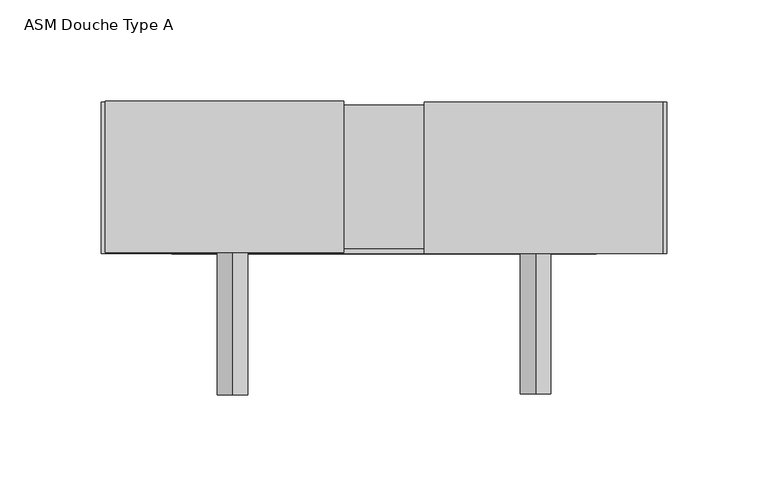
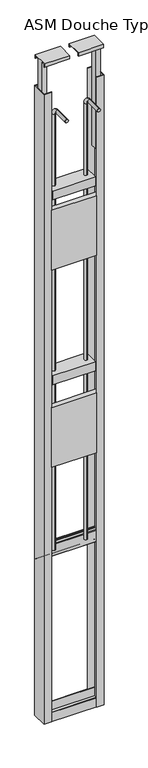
"""IFC4 building model written with IfcOpenShell, lengths in millimetres: flow terminal geometry, NLRS_74_PF_TLB_ASM Douche Type A glijstang_Geberit : ASM Douche Type A."""

from ifc_helpers import new_model, si_unit, point, frame, frame_2d, origin, place, context, project, spatial, polyline, circle_curve, ellipse_curve, trimmed, segment, composite_curve, outline, extrude, faceted_brep, source, transform, mapped, element, save
from ifc_brep_helpers import plane_surface, cylinder_surface, revolved_surface, advanced_brep


def asm_douche_type_a_63d58c08(model_context):
    return source(origin(), model_context, "Body", "SolidModel", [
        extrude(outline(polyline([(958.5814924, 2.0), (924.5814924, 2.0), (924.5814924, 0.0), (714.5814924, 0.0), (714.5814924, 2.0), (680.5814924, 2.0), (680.5814924, 24.0), (958.5814924, 24.0), (958.5814924, 2.0)])), frame((0.0, 0.0, 2172.5), z_axis=(0.0, 0.0, 1.0), x_axis=(1.0, 0.0, 0.0)), (0.0, 0.0, 1.0), 295.0),
        extrude(outline(polyline([(958.5814924, 2.0), (924.5814924, 2.0), (924.5814924, 0.0), (714.5814924, 0.0), (714.5814924, 2.0), (680.5814924, 2.0), (680.5814924, 24.0), (958.5814924, 24.0), (958.5814924, 2.0)])), frame((0.0, 0.0, 1202.5), z_axis=(0.0, 0.0, 1.0), x_axis=(1.0, 0.0, 0.0)), (0.0, 0.0, 1.0), 295.0),
        extrude(outline(polyline([(2.5, 2516.0), (2.5, 2560.0), (73.5, 2560.0), (73.5, 2516.0), (71.5, 2516.0), (71.5, 2558.0), (4.5, 2558.0), (4.5, 2516.0), (2.5, 2516.0)])), frame((719.5814924, 0.0, 0.0), z_axis=(1.0, 0.0, 0.0), x_axis=(0.0, 1.0, 0.0)), (0.0, 0.0, 1.0), 200.0),
        extrude(outline(polyline([(2.5, 1606.0), (2.5, 1650.0), (73.5, 1650.0), (73.5, 1606.0), (71.5, 1606.0), (71.5, 1648.0), (4.5, 1648.0), (4.5, 1606.0), (2.5, 1606.0)])), frame((719.5814924, 0.0, 0.0), z_axis=(1.0, 0.0, 0.0), x_axis=(0.0, 1.0, 0.0)), (0.0, 0.0, 1.0), 200.0),
        extrude(outline(polyline([(924.5814924, 0.0), (924.5814924, 2.0), (957.5814924, 2.0), (957.5814924, 73.0), (924.5814924, 73.0), (924.5814924, 75.0), (959.5814924, 75.0), (959.5814924, 0.0), (924.5814924, 0.0)])), frame((0.0, 0.0, -50.0), z_axis=(0.0, 0.0, 1.0), x_axis=(1.0, 0.0, 0.0)), (0.0, 0.0, 1.0), 3100.0),
        extrude(outline(polyline([(714.5814924, 0.0), (679.5814924, 0.0), (679.5814924, 75.0), (714.5814924, 75.0), (714.5814924, 73.0), (681.5814924, 73.0), (681.5814924, 2.0), (714.5814924, 2.0), (714.5814924, 0.0)])), frame((0.0, 0.0, -50.0), z_axis=(0.0, 0.0, 1.0), x_axis=(1.0, 0.0, 0.0)), (0.0, 0.0, 1.0), 3100.0),
        extrude(outline(polyline([(2.0, -6.0), (4.0, -6.0), (4.0, -48.0), (71.0, -48.0), (71.0, -6.0), (73.0, -6.0), (73.0, -50.0), (2.0, -50.0), (2.0, -6.0)])), frame((684.5814924, 0.0, 0.0), z_axis=(1.0, 0.0, 0.0), x_axis=(0.0, 1.0, 0.0)), (0.0, 0.0, 1.0), 270.0),
        faceted_brep([(839.5814924, 0.0, 3183.0), (839.5814924, 0.0, 3200.0), (839.5814924, 75.0, 3200.0), (839.5814924, 75.0, 3183.0), (839.5814924, 73.0, 3183.0), (839.5814924, 73.0, 3198.0), (839.5814924, 2.0, 3198.0), (839.5814924, 2.0, 3183.0), (957.5814924, 0.0, 3183.0), (957.5814924, 2.0, 3183.0), (957.5814924, 2.0, 3198.0), (957.5814924, 25.0, 3198.0), (957.5814924, 25.0, 2683.0), (957.5814924, 50.0, 2683.0), (957.5814924, 50.0, 3198.0), (957.5814924, 73.0, 3198.0), (957.5814924, 73.0, 3183.0), (957.5814924, 75.0, 3183.0), (957.5814924, 75.0, 3200.0), (957.5814924, 0.0, 3200.0), (932.5814924, 50.0, 3198.0), (932.5814924, 25.0, 3198.0), (932.5814924, 25.0, 2683.0), (932.5814924, 50.0, 2683.0)], [[[0, 1, 2, 3, 4, 5, 6, 7]], [[8, 9, 10, 11, 12, 13, 14, 15, 16, 17, 18, 19]], [[0, 7, 9, 8]], [[7, 6, 10, 9]], [[6, 5, 15, 14, 20, 21, 11, 10]], [[5, 4, 16, 15]], [[4, 3, 17, 16]], [[3, 2, 18, 17]], [[2, 1, 19, 18]], [[1, 0, 8, 19]], [[22, 23, 13, 12]], [[22, 12, 11, 21]], [[13, 23, 20, 14]], [[23, 22, 21, 20]]]),
        faceted_brep([(799.5814924, 0.5, 3183.0), (799.5814924, 2.5, 3183.0), (799.5814924, 2.5, 3198.0), (799.5814924, 73.5, 3198.0), (799.5814924, 73.5, 3183.0), (799.5814924, 75.5, 3183.0), (799.5814924, 75.5, 3200.0), (799.5814924, 0.5, 3200.0), (681.5814924, 0.5, 3183.0), (681.5814924, 0.5, 3200.0), (681.5814924, 75.5, 3200.0), (681.5814924, 75.5, 3183.0), (681.5814924, 73.5, 3183.0), (681.5814924, 73.5, 3198.0), (681.5814924, 50.5, 3198.0), (681.5814924, 50.5, 2683.0), (681.5814924, 25.5, 2683.0), (681.5814924, 25.5, 3198.0), (681.5814924, 2.5, 3198.0), (681.5814924, 2.5, 3183.0), (706.5814924, 25.5, 3198.0), (706.5814924, 50.5, 3198.0), (706.5814924, 25.5, 2683.0), (706.5814924, 50.5, 2683.0)], [[[0, 1, 2, 3, 4, 5, 6, 7]], [[8, 9, 10, 11, 12, 13, 14, 15, 16, 17, 18, 19]], [[0, 8, 19, 1]], [[1, 19, 18, 2]], [[2, 18, 17, 20, 21, 14, 13, 3]], [[3, 13, 12, 4]], [[4, 12, 11, 5]], [[5, 11, 10, 6]], [[6, 10, 9, 7]], [[7, 9, 8, 0]], [[22, 16, 15, 23]], [[22, 20, 17, 16]], [[15, 14, 21, 23]], [[23, 21, 20, 22]]]),
        advanced_brep(
        [(894.5814924, 28.1893191, 768.0), (894.5814924, 43.1893191, 768.0), (894.5814924, 28.1893191, 2912.0), (894.5814924, 43.1893191, 2912.0), (894.5814924, 7.6893191, 2947.5), (894.5814924, 7.6893191, 2932.5), (894.5814924, -69.5, 2932.5), (894.5814924, -69.5, 2947.5)],
        [
            (0, 1, circle_curve(frame((894.5814924, 35.6893191, 768.0), z_axis=(0.0, 0.0, -1.0), x_axis=(0.0, 1.0, 0.0)), 7.5)),
            (1, 0, circle_curve(frame((894.5814924, 35.6893191, 768.0), z_axis=(0.0, 0.0, -1.0), x_axis=(0.0, 1.0, 0.0)), 7.5)),
            (0, 2),
            (2, 3, circle_curve(frame((894.5814924, 35.6893191, 2912.0), z_axis=(0.0, 0.0, -1.0), x_axis=(0.0, 1.0, 0.0)), 7.5)),
            (3, 1),
            (3, 2, circle_curve(frame((894.5814924, 35.6893191, 2912.0), z_axis=(0.0, 0.0, -1.0), x_axis=(0.0, 1.0, 0.0)), 7.5)),
            (4, 3, circle_curve(frame((894.5814924, 7.6893191, 2912.0), z_axis=(-1.0, 0.0, 0.0), x_axis=(0.0, 1.0, 0.0)), 35.5)),
            (2, 5, circle_curve(frame((894.5814924, 7.6893191, 2912.0), z_axis=(1.0, 0.0, 0.0), x_axis=(0.0, 1.0, 0.0)), 20.5)),
            (5, 4, circle_curve(frame((894.5814924, 7.6893191, 2940.0), z_axis=(0.0, 1.0, 0.0), x_axis=(0.0, 0.0, 1.0)), 7.5)),
            (4, 5, circle_curve(frame((894.5814924, 7.6893191, 2940.0), z_axis=(0.0, 1.0, 0.0), x_axis=(0.0, 0.0, 1.0)), 7.5)),
            (6, 7, circle_curve(frame((894.5814924, -69.5, 2940.0), z_axis=(0.0, -1.0, 0.0), x_axis=(0.0, 0.0, 1.0)), 7.5)),
            (7, 6, circle_curve(frame((894.5814924, -69.5, 2940.0), z_axis=(0.0, -1.0, 0.0), x_axis=(0.0, 0.0, 1.0)), 7.5)),
            (5, 6),
            (7, 4),
        ],
        [
            plane_surface(frame((894.5814924, 35.6893191, 768.0), z_axis=(0.0, 0.0, -1.0), x_axis=(-1.0, 0.0, 0.0))),
            cylinder_surface(frame((894.5814924, 35.6893191, 768.0), z_axis=(0.0, 0.0, -1.0), x_axis=(0.0, 1.0, 0.0)), 7.5),
            revolved_surface(trimmed(ellipse_curve(frame((894.5814924, 35.6893191, 2912.0), z_axis=(0.0, 0.0, -1.0), x_axis=(0.0, 1.0, 0.0)), 7.5, 7.5), [point((894.5814924, 28.1893191, 2912.0))], [point((894.5814924, 43.1893191, 2912.0))], True, "CARTESIAN"), (894.5814924, 7.6893191, 2912.0), (1.0, 0.0, 0.0)),
            revolved_surface(trimmed(ellipse_curve(frame((894.5814924, 35.6893191, 2912.0), z_axis=(0.0, 0.0, -1.0), x_axis=(0.0, 1.0, 0.0)), 7.5, 7.5), [point((894.5814924, 43.1893191, 2912.0))], [point((894.5814924, 28.1893191, 2912.0))], True, "CARTESIAN"), (894.5814924, 7.6893191, 2912.0), (1.0, 0.0, 0.0)),
            plane_surface(frame((894.5814924, -69.5, 2940.0), z_axis=(0.0, -1.0, 0.0), x_axis=(-1.0, 0.0, 0.0))),
            cylinder_surface(frame((894.5814924, 7.6893191, 2940.0), z_axis=(0.0, 1.0, 0.0), x_axis=(0.0, 0.0, 1.0)), 7.5),
        ],
        [
            (0, [[1, 2]]),
            (1, [[-1, 3, 4, 5]]),
            (1, [[-2, -5, 6, -3]]),
            (2, [[7, -4, 8, 9]]),
            (3, [[-8, -6, -7, 10]]),
            (4, [[11, 12]]),
            (5, [[-9, 13, -12, 14]]),
            (5, [[-10, -14, -11, -13]]),
        ],
    ),
        advanced_brep(
        [(744.5814924, 28.1893191, 768.0), (744.5814924, 43.1893191, 768.0), (744.5814924, 28.1893191, 2912.0), (744.5814924, 43.1893191, 2912.0), (744.5814924, 7.6893191, 2947.5), (744.5814924, 7.6893191, 2932.5), (744.5814924, -70.0, 2932.5), (744.5814924, -70.0, 2947.5)],
        [
            (0, 1, circle_curve(frame((744.5814924, 35.6893191, 768.0), z_axis=(0.0, 0.0, -1.0), x_axis=(0.0, 1.0, 0.0)), 7.5)),
            (1, 0, circle_curve(frame((744.5814924, 35.6893191, 768.0), z_axis=(0.0, 0.0, -1.0), x_axis=(0.0, 1.0, 0.0)), 7.5)),
            (0, 2),
            (2, 3, circle_curve(frame((744.5814924, 35.6893191, 2912.0), z_axis=(0.0, 0.0, -1.0), x_axis=(0.0, 1.0, 0.0)), 7.5)),
            (3, 1),
            (3, 2, circle_curve(frame((744.5814924, 35.6893191, 2912.0), z_axis=(0.0, 0.0, -1.0), x_axis=(0.0, 1.0, 0.0)), 7.5)),
            (4, 3, circle_curve(frame((744.5814924, 7.6893191, 2912.0), z_axis=(-1.0, 0.0, 0.0), x_axis=(0.0, 1.0, 0.0)), 35.5)),
            (2, 5, circle_curve(frame((744.5814924, 7.6893191, 2912.0), z_axis=(1.0, 0.0, 0.0), x_axis=(0.0, 1.0, 0.0)), 20.5)),
            (5, 4, circle_curve(frame((744.5814924, 7.6893191, 2940.0), z_axis=(0.0, 1.0, 0.0), x_axis=(0.0, 0.0, 1.0)), 7.5)),
            (4, 5, circle_curve(frame((744.5814924, 7.6893191, 2940.0), z_axis=(0.0, 1.0, 0.0), x_axis=(0.0, 0.0, 1.0)), 7.5)),
            (6, 7, circle_curve(frame((744.5814924, -70.0, 2940.0), z_axis=(0.0, -1.0, 0.0), x_axis=(0.0, 0.0, 1.0)), 7.5)),
            (7, 6, circle_curve(frame((744.5814924, -70.0, 2940.0), z_axis=(0.0, -1.0, 0.0), x_axis=(0.0, 0.0, 1.0)), 7.5)),
            (5, 6),
            (7, 4),
        ],
        [
            plane_surface(frame((819.5814924, 35.6893191, 768.0), z_axis=(0.0, 0.0, -1.0), x_axis=(-1.0, 0.0, 0.0))),
            cylinder_surface(frame((744.5814924, 35.6893191, 768.0), z_axis=(0.0, 0.0, -1.0), x_axis=(0.0, 1.0, 0.0)), 7.5),
            revolved_surface(trimmed(ellipse_curve(frame((744.5814924, 35.6893191, 2912.0), z_axis=(0.0, 0.0, -1.0), x_axis=(0.0, 1.0, 0.0)), 7.5, 7.5), [point((744.5814924, 28.1893191, 2912.0))], [point((744.5814924, 43.1893191, 2912.0))], True, "CARTESIAN"), (819.5814924, 7.6893191, 2912.0), (1.0, 0.0, 0.0)),
            revolved_surface(trimmed(ellipse_curve(frame((744.5814924, 35.6893191, 2912.0), z_axis=(0.0, 0.0, -1.0), x_axis=(0.0, 1.0, 0.0)), 7.5, 7.5), [point((744.5814924, 43.1893191, 2912.0))], [point((744.5814924, 28.1893191, 2912.0))], True, "CARTESIAN"), (819.5814924, 7.6893191, 2912.0), (1.0, 0.0, 0.0)),
            plane_surface(frame((819.5814924, -70.0, 2940.0), z_axis=(0.0, -1.0, 0.0), x_axis=(-1.0, 0.0, 0.0))),
            cylinder_surface(frame((744.5814924, 7.6893191, 2940.0), z_axis=(0.0, 1.0, 0.0), x_axis=(0.0, 0.0, 1.0)), 7.5),
        ],
        [
            (0, [[1, 2]]),
            (1, [[-1, 3, 4, 5]]),
            (1, [[-2, -5, 6, -3]]),
            (2, [[7, -4, 8, 9]]),
            (3, [[-8, -6, -7, 10]]),
            (4, [[11, 12]]),
            (5, [[-9, 13, -12, 14]]),
            (5, [[-10, -14, -11, -13]]),
        ],
    ),
        extrude(outline(composite_curve([segment(trimmed(circle_curve(frame_2d((71.3732031, 779.0160249)), 2.1267969), [point((73.5, 779.0160249))], [point((71.3732031, 776.889228))], False, "CARTESIAN"), True, "CONTINUOUS"), segment(polyline([(71.3732031, 776.889228), (56.3732031, 776.889228)]), True, "CONTINUOUS"), segment(trimmed(circle_curve(frame_2d((56.3732031, 776.2053441)), 0.683884), [point((56.3732031, 776.889228))], [point((55.6893191, 776.2053441))], True, "CARTESIAN"), True, "CONTINUOUS"), segment(polyline([(55.6893191, 776.2053441), (55.6893191, 723.7713196)]), True, "CONTINUOUS"), segment(trimmed(circle_curve(frame_2d((56.3874999, 723.7713196)), 0.6981808), [point((55.6893191, 723.7713196))], [point((56.3874999, 723.0731388))], True, "CARTESIAN"), True, "CONTINUOUS"), segment(polyline([(56.3874999, 723.0731388), (71.3874999, 723.0731388)]), True, "CONTINUOUS"), segment(trimmed(circle_curve(frame_2d((71.3874999, 720.9606387)), 2.1125001), [point((71.3874999, 723.0731388))], [point((73.5, 720.9606387))], False, "CARTESIAN"), True, "CONTINUOUS"), segment(polyline([(73.5, 720.9606387), (73.5, 714.0), (71.5, 714.0), (71.5, 720.3374716)]), True, "CONTINUOUS"), segment(trimmed(circle_curve(frame_2d((70.7643328, 720.3374716)), 0.7356672), [point((71.5, 720.3374716))], [point((70.7643328, 721.0731388))], True, "CARTESIAN"), True, "CONTINUOUS"), segment(polyline([(70.7643328, 721.0731388), (55.7863096, 721.0731388)]), True, "CONTINUOUS"), segment(trimmed(circle_curve(frame_2d((55.7863096, 723.1701292)), 2.0969904), [point((55.7863096, 721.0731388))], [point((53.6893191, 723.1701292))], False, "CARTESIAN"), True, "CONTINUOUS"), segment(polyline([(53.6893191, 723.1701292), (53.6893191, 776.7922376)]), True, "CONTINUOUS"), segment(trimmed(circle_curve(frame_2d((55.7863096, 776.7922376)), 2.0969904), [point((53.6893191, 776.7922376))], [point((55.7863096, 778.889228))], False, "CARTESIAN"), True, "CONTINUOUS"), segment(polyline([(55.7863096, 778.889228), (70.7904457, 778.889228)]), True, "CONTINUOUS"), segment(trimmed(circle_curve(frame_2d((70.7904457, 779.5987824)), 0.7095543), [point((70.7904457, 778.889228))], [point((71.5, 779.5987824))], True, "CARTESIAN"), True, "CONTINUOUS"), segment(polyline([(71.5, 779.5987824), (71.5, 786.0), (73.5, 786.0), (73.5, 779.0160249)]), True, "CONTINUOUS")], self_intersect=False)), frame((682.0814924, 0.0, 0.0), z_axis=(1.0, 0.0, 0.0), x_axis=(0.0, 1.0, 0.0)), (0.0, 0.0, 1.0), 275.0),
    ])


if __name__ == "__main__":
    model = new_model("IFC4")
    model_context = context("Model", 3, world=origin())
    ifc_project = project(units=[si_unit("LENGTHUNIT", "METRE", prefix="MILLI")], contexts=[model_context])
    site = spatial("IfcSite", under=ifc_project)
    building = spatial("IfcBuilding", under=site)
    placement = place(None, origin())
    asm_douche_type_a_shape = asm_douche_type_a_63d58c08(model_context)
    element("IfcFlowTerminal", 1, ObjectType="NLRS_74_PF_TLB_ASM Douche Type A glijstang_Geberit : ASM Douche Type A", at=placement, inside=building, context=model_context, shape_type="MappedRepresentation", body=[
        mapped(asm_douche_type_a_shape, transform((0.0, 0.0, 0.0), x_axis=(1.0, 0.0, 0.0), y_axis=(0.0, 1.0, 0.0), z_axis=(0.0, 0.0, 1.0))),
    ])
    save(model, "model.ifc")
